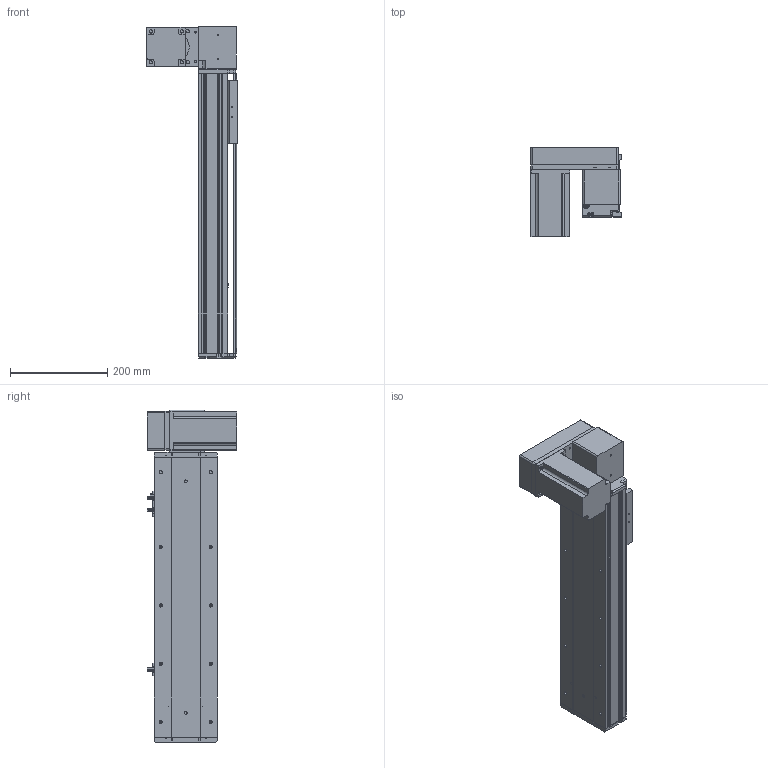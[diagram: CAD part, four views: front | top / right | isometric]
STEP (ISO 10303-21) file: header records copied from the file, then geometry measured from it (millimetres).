
FILE_DESCRIPTION (( 'STEP AP214' ), '1' );
FILE_NAME ('KSD130B-S350-MRD-CM.STEP', '2019-11-15T08:22:28', ( '微软用户' ), ( '微软中国' ), 'SwSTEP 2.0', 'SolidWorks 2014', '' );
FILE_SCHEMA (( 'AUTOMOTIVE_DESIGN' ));
Length unit declared in the file: millimetre
Products named in the file (12): 130宽底板半封闭同步带-350行程; KSD130B-S350-MRD-CM; 130宽模组保护罩上下左右折-同步带; 台达ECMA－C20807AS伺服电机; 130宽模组马达安装板连板上下折丝杆同步带; 覜茼え100遵圉猾敕; U倰嫖萇EEㄜSX672; 130宽盖板半封闭同步带-350行程; 130宽马达安装板同步带右-改镜向_默认<按加工>; 130宽马达安装板同步带半封闭; 130宽同步带安装座半封闭; 130宽端盖同步带半封闭
Assembly tree (13 placements, depth 2):
  KSD130B-S350-MRD-CM
    130宽底板半封闭同步带-350行程
    130宽端盖同步带半封闭
    130宽同步带安装座半封闭
    130宽马达安装板同步带半封闭
    130宽马达安装板同步带右-改镜向_默认<按加工>
    130宽盖板半封闭同步带-350行程
    U倰嫖萇EEㄜSX672  x3
    覜茼え100遵圉猾敕
    130宽模组马达安装板连板上下折丝杆同步带
    台达ECMA－C20807AS伺服电机
    130宽模组保护罩上下左右折-同步带
Bounding box: 186 x 184.8 x 683 mm (x, y, z)
Volume: 3213105.6 mm3; surface area: 818228 mm2
Topology: 14 solids, 14 shells, 1367 faces, 3825 edges, 2461 vertices
Faces by surface type: cylinder 634, plane 602, cone 131
Entity records: 43227 total; most frequent: CARTESIAN_POINT 7618, DIRECTION 6663, ORIENTED_EDGE 6374, EDGE_CURVE 3187, AXIS2_PLACEMENT_3D 2406, VERTEX_POINT 2085, VECTOR 1851, LINE 1851
